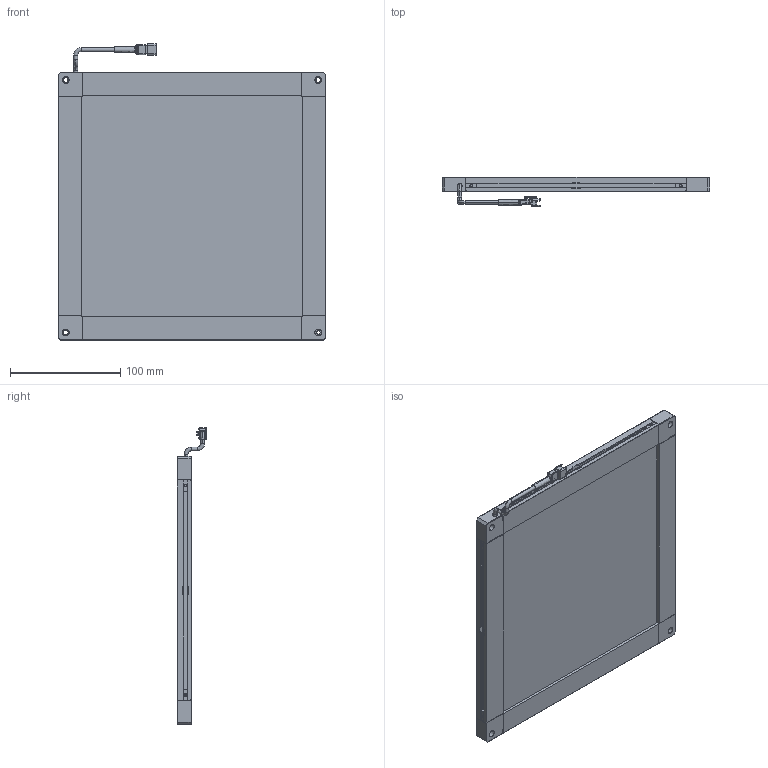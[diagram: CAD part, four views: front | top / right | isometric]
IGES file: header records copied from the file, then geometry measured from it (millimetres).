
Start section: SolidWorks IGES file using NURBS representation for surfaces
Bounding box: 243 x 27.1 x 268.85 mm (x, y, z)
Surface area: 157779.8 mm2 (no closed solid volume)
Topology: 0 solids, 0 shells, 556 faces, 4830 edges, 4830 vertices
Faces by surface type: bspline 556
